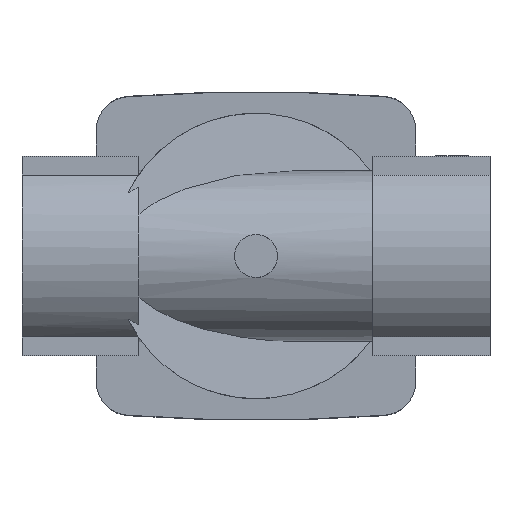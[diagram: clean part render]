
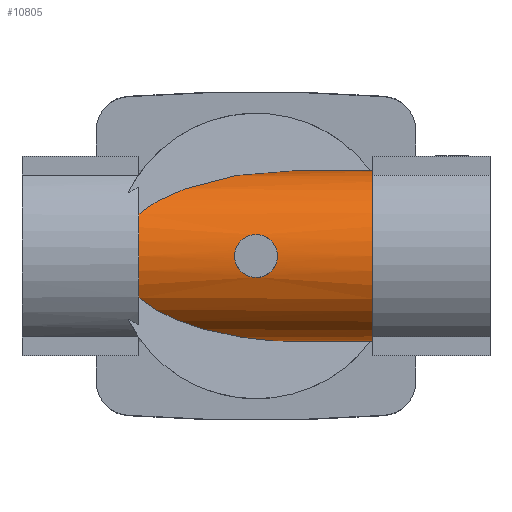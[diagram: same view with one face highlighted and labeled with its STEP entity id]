
A CAD part, front view. The second image highlights one B-rep face of the part: STEP entity #10805.
In plain terms, the highlighted cylindrical face has radius 30 mm (diameter 60 mm), a partial arc.
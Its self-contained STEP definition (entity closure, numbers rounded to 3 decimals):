
#59=ELLIPSE('',#11320,71.15,30.);
#62=ELLIPSE('',#11327,71.15,30.);
#74=B_SPLINE_CURVE_WITH_KNOTS('',3,(#14812,#14813,#14814,#14815,#14816,
#14817,#14818,#14819,#14820,#14821,#14822,#14823,#14824,#14825,#14826,#14827,
#14828,#14829,#14830),.UNSPECIFIED.,.T.,.F.,(1,1,1,1,1,1,1,1,1,1,1,1,1,
1,1,1,1,1,1,1,1,1,1),(-0.009,-0.006,-0.003,
0.,0.003,0.006,0.009,0.012,
0.015,0.018,0.021,0.024,
0.026,0.029,0.032,0.035,
0.038,0.041,0.044,0.047,
0.05,0.053,0.056),.UNSPECIFIED.);
#121=CYLINDRICAL_SURFACE('',#11350,30.);
#354=LINE('',#14807,#1330);
#355=LINE('',#14811,#1331);
#1330=VECTOR('',#12424,1000.);
#1331=VECTOR('',#12427,1000.);
#2661=ORIENTED_EDGE('',*,*,#4806,.F.);
#2662=ORIENTED_EDGE('',*,*,#4846,.T.);
#2663=ORIENTED_EDGE('',*,*,#4791,.F.);
#2664=ORIENTED_EDGE('',*,*,#4847,.F.);
#2665=ORIENTED_EDGE('',*,*,#4848,.F.);
#2666=ORIENTED_EDGE('',*,*,#4849,.T.);
#2667=ORIENTED_EDGE('',*,*,#4850,.F.);
#4791=EDGE_CURVE('',#5945,#5946,#59,.F.);
#4806=EDGE_CURVE('',#5958,#5959,#62,.F.);
#4846=EDGE_CURVE('',#5958,#5946,#6651,.T.);
#4847=EDGE_CURVE('',#5979,#5945,#354,.T.);
#4848=EDGE_CURVE('',#5980,#5979,#6652,.T.);
#4849=EDGE_CURVE('',#5980,#5959,#355,.T.);
#4850=EDGE_CURVE('',#5981,#5981,#74,.T.);
#5945=VERTEX_POINT('',#14692);
#5946=VERTEX_POINT('',#14694);
#5958=VERTEX_POINT('',#14729);
#5959=VERTEX_POINT('',#14731);
#5979=VERTEX_POINT('',#14808);
#5980=VERTEX_POINT('',#14810);
#5981=VERTEX_POINT('',#14831);
#6651=CIRCLE('',#11351,30.);
#6652=CIRCLE('',#11352,30.);
#6903=EDGE_LOOP('',(#2661,#2662,#2663,#2664,#2665,#2666));
#6904=EDGE_LOOP('',(#2667));
#7379=FACE_BOUND('',#6903,.T.);
#7380=FACE_BOUND('',#6904,.T.);
#10805=ADVANCED_FACE('',(#7379,#7380),#121,.T.);
#11320=AXIS2_PLACEMENT_3D('',#14693,#12319,#12320);
#11327=AXIS2_PLACEMENT_3D('',#14730,#12342,#12343);
#11350=AXIS2_PLACEMENT_3D('',#14805,#12420,#12421);
#11351=AXIS2_PLACEMENT_3D('',#14806,#12422,#12423);
#11352=AXIS2_PLACEMENT_3D('',#14809,#12425,#12426);
#12319=DIRECTION('',(0.422,-0.907,0.));
#12320=DIRECTION('',(-0.907,-0.422,0.));
#12342=DIRECTION('',(0.422,-0.907,0.));
#12343=DIRECTION('',(-0.907,-0.422,0.));
#12420=DIRECTION('',(-1.,0.,0.));
#12421=DIRECTION('',(0.,0.,1.));
#12422=DIRECTION('',(1.,0.,0.));
#12423=DIRECTION('',(0.,0.,-1.));
#12424=DIRECTION('',(-1.,0.,0.));
#12425=DIRECTION('',(1.,0.,0.));
#12426=DIRECTION('',(0.,0.,-1.));
#12427=DIRECTION('',(-1.,0.,0.));
#14692=CARTESIAN_POINT('',(15.161,-46.2,-30.));
#14693=CARTESIAN_POINT('',(15.161,-46.2,0.));
#14694=CARTESIAN_POINT('',(-41.,-72.315,-14.765));
#14729=CARTESIAN_POINT('',(-41.,-72.315,14.765));
#14730=CARTESIAN_POINT('',(15.161,-46.2,0.));
#14731=CARTESIAN_POINT('',(15.161,-46.2,30.));
#14805=CARTESIAN_POINT('',(41.,-46.2,0.));
#14806=CARTESIAN_POINT('',(-41.,-46.2,0.));
#14807=CARTESIAN_POINT('',(41.,-46.2,-30.));
#14808=CARTESIAN_POINT('',(41.,-46.2,-30.));
#14809=CARTESIAN_POINT('',(41.,-46.2,0.));
#14810=CARTESIAN_POINT('',(41.,-46.2,30.));
#14811=CARTESIAN_POINT('',(41.,-46.2,30.));
#14812=CARTESIAN_POINT('',(2.966,-75.354,7.101));
#14813=CARTESIAN_POINT('',(-0.002,-75.194,7.699));
#14814=CARTESIAN_POINT('',(-2.957,-75.354,7.104));
#14815=CARTESIAN_POINT('',(-5.441,-75.729,5.439));
#14816=CARTESIAN_POINT('',(-7.104,-76.097,2.957));
#14817=CARTESIAN_POINT('',(-7.697,-76.251,0.006));
#14818=CARTESIAN_POINT('',(-7.108,-76.098,-2.951));
#14819=CARTESIAN_POINT('',(-5.439,-75.728,-5.441));
#14820=CARTESIAN_POINT('',(-2.955,-75.354,-7.105));
#14821=CARTESIAN_POINT('',(-0.004,-75.194,-7.697));
#14822=CARTESIAN_POINT('',(2.95,-75.353,-7.107));
#14823=CARTESIAN_POINT('',(5.435,-75.728,-5.444));
#14824=CARTESIAN_POINT('',(7.103,-76.097,-2.961));
#14825=CARTESIAN_POINT('',(7.698,-76.251,-0.004));
#14826=CARTESIAN_POINT('',(7.107,-76.098,2.952));
#14827=CARTESIAN_POINT('',(5.442,-75.729,5.437));
#14828=CARTESIAN_POINT('',(2.966,-75.354,7.101));
#14829=CARTESIAN_POINT('',(-0.002,-75.194,7.699));
#14830=CARTESIAN_POINT('',(-2.957,-75.354,7.104));
#14831=CARTESIAN_POINT('',(0.,-75.247,7.5));
